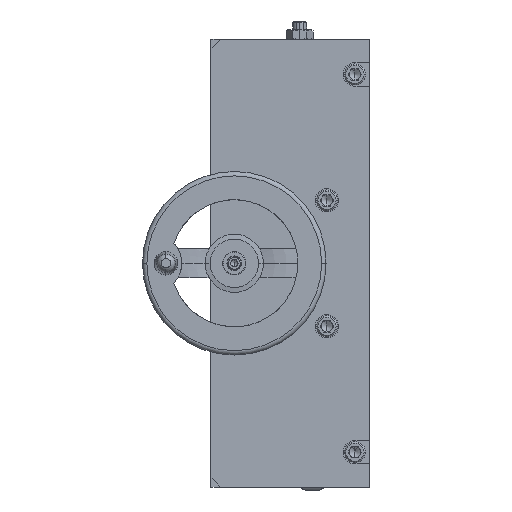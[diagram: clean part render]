
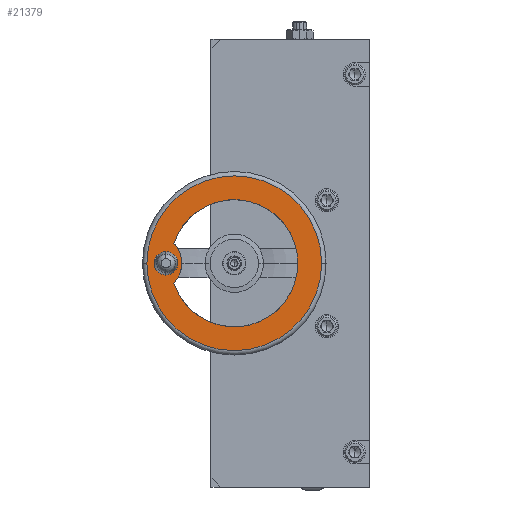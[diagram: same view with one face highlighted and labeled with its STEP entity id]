
A CAD part, left-side view. The second image highlights one B-rep face of the part: STEP entity #21379.
In plain terms, the highlighted planar face has unit normal (-1, 0, 0) as drawn and (0, 1, 0) by its records, which use the part's own axes.
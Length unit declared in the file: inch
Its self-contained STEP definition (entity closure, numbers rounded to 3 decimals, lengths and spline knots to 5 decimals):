
#1946 = CIRCLE ( 'NONE', #1949, 1.70472 ) ;
#1949 = AXIS2_PLACEMENT_3D ( 'NONE', #24365, #24366, #24367 ) ;
#1950 = CIRCLE ( 'NONE', #1953, 0.31496 ) ;
#1953 = AXIS2_PLACEMENT_3D ( 'NONE', #24373, #24374, #24375 ) ;
#1954 = CIRCLE ( 'NONE', #1956, 2.34252 ) ;
#1956 = AXIS2_PLACEMENT_3D ( 'NONE', #24377, #24378, #24379 ) ;
#1978 = CIRCLE ( 'NONE', #1979, 0.7874 ) ;
#1979 = AXIS2_PLACEMENT_3D ( 'NONE', #24510, #24511, #24512 ) ;
#2017 = CIRCLE ( 'NONE', #2018, 0.7874 ) ;
#2018 = AXIS2_PLACEMENT_3D ( 'NONE', #24640, #24641, #24642 ) ;
#4583 = DIRECTION ( 'NONE',  ( 0., 1., 0. ) ) ;
#4588 = PLANE ( 'NONE',  #9662 ) ;
#4589 = FACE_BOUND ( 'NONE', #6217, .T. ) ;
#4590 = CARTESIAN_POINT ( 'NONE',  ( 1.70472, 1.5748, 0. ) ) ;
#4591 = FACE_BOUND ( 'NONE', #6180, .T. ) ;
#4593 = FACE_OUTER_BOUND ( 'NONE', #6147, .T. ) ;
#4594 = DIRECTION ( 'NONE',  ( 0., 0., 1. ) ) ;
#6147 = EDGE_LOOP ( 'NONE', ( #7969, #7968 ) ) ;
#6180 = EDGE_LOOP ( 'NONE', ( #7973, #7972, #7971, #7970 ) ) ;
#6217 = EDGE_LOOP ( 'NONE', ( #7975, #7974 ) ) ;
#7968 = ORIENTED_EDGE ( 'NONE', *, *, #22641, .T. ) ;
#7969 = ORIENTED_EDGE ( 'NONE', *, *, #13269, .T. ) ;
#7970 = ORIENTED_EDGE ( 'NONE', *, *, #22632, .F. ) ;
#7971 = ORIENTED_EDGE ( 'NONE', *, *, #13305, .F. ) ;
#7972 = ORIENTED_EDGE ( 'NONE', *, *, #22678, .T. ) ;
#7973 = ORIENTED_EDGE ( 'NONE', *, *, #22731, .T. ) ;
#7974 = ORIENTED_EDGE ( 'NONE', *, *, #22637, .F. ) ;
#7975 = ORIENTED_EDGE ( 'NONE', *, *, #13300, .F. ) ;
#9006 = VERTEX_POINT ( 'NONE', #22425 ) ;
#9010 = VERTEX_POINT ( 'NONE', #22432 ) ;
#9029 = VERTEX_POINT ( 'NONE', #22465 ) ;
#9030 = VERTEX_POINT ( 'NONE', #22467 ) ;
#9033 = VERTEX_POINT ( 'NONE', #22472 ) ;
#9034 = VERTEX_POINT ( 'NONE', #22474 ) ;
#9039 = VERTEX_POINT ( 'NONE', #22482 ) ;
#9046 = VERTEX_POINT ( 'NONE', #22495 ) ;
#9662 = AXIS2_PLACEMENT_3D ( 'NONE', #4590, #4583, #4594 ) ;
#13269 = EDGE_CURVE ( 'NONE', #9030, #9029, #19564, .T. ) ;
#13300 = EDGE_CURVE ( 'NONE', #9010, #9006, #19625, .T. ) ;
#13305 = EDGE_CURVE ( 'NONE', #9033, #9034, #19772, .T. ) ;
#19437 = AXIS2_PLACEMENT_3D ( 'NONE', #22944, #22945, #22946 ) ;
#19501 = AXIS2_PLACEMENT_3D ( 'NONE', #22917, #22918, #22919 ) ;
#19564 = CIRCLE ( 'NONE', #19748, 2.34252 ) ;
#19625 = CIRCLE ( 'NONE', #19501, 0.31496 ) ;
#19748 = AXIS2_PLACEMENT_3D ( 'NONE', #22743, #22744, #22745 ) ;
#19772 = CIRCLE ( 'NONE', #19437, 1.70472 ) ;
#21379 = ADVANCED_FACE ( 'NONE', ( #4589, #4591, #4593 ), #4588, .T. ) ;
#22425 = CARTESIAN_POINT ( 'NONE',  ( 0.31496, 1.5748, -1.83071 ) ) ;
#22432 = CARTESIAN_POINT ( 'NONE',  ( -0.31496, 1.5748, -1.83071 ) ) ;
#22465 = CARTESIAN_POINT ( 'NONE',  ( 0., 1.5748, -2.34252 ) ) ;
#22467 = CARTESIAN_POINT ( 'NONE',  ( 0., 1.5748, 2.34252 ) ) ;
#22472 = CARTESIAN_POINT ( 'NONE',  ( 0., 1.5748, 1.70472 ) ) ;
#22474 = CARTESIAN_POINT ( 'NONE',  ( 0.53459, 1.5748, -1.61873 ) ) ;
#22482 = CARTESIAN_POINT ( 'NONE',  ( 0., 1.5748, -1.40945 ) ) ;
#22495 = CARTESIAN_POINT ( 'NONE',  ( -0.53459, 1.5748, -1.61873 ) ) ;
#22632 = EDGE_CURVE ( 'NONE', #9046, #9033, #1946, .T. ) ;
#22637 = EDGE_CURVE ( 'NONE', #9006, #9010, #1950, .T. ) ;
#22641 = EDGE_CURVE ( 'NONE', #9029, #9030, #1954, .T. ) ;
#22678 = EDGE_CURVE ( 'NONE', #9039, #9034, #1978, .T. ) ;
#22731 = EDGE_CURVE ( 'NONE', #9046, #9039, #2017, .T. ) ;
#22743 = CARTESIAN_POINT ( 'NONE',  ( 0., 1.5748, 0. ) ) ;
#22744 = DIRECTION ( 'NONE',  ( 0., 1., 0. ) ) ;
#22745 = DIRECTION ( 'NONE',  ( 0., 0., 1. ) ) ;
#22917 = CARTESIAN_POINT ( 'NONE',  ( 0., 1.5748, -1.83071 ) ) ;
#22918 = DIRECTION ( 'NONE',  ( 0., 1., 0. ) ) ;
#22919 = DIRECTION ( 'NONE',  ( 0., 0., 1. ) ) ;
#22944 = CARTESIAN_POINT ( 'NONE',  ( 0., 1.5748, 0. ) ) ;
#22945 = DIRECTION ( 'NONE',  ( 0., 1., 0. ) ) ;
#22946 = DIRECTION ( 'NONE',  ( 0., 0., 1. ) ) ;
#24365 = CARTESIAN_POINT ( 'NONE',  ( 0., 1.5748, 0. ) ) ;
#24366 = DIRECTION ( 'NONE',  ( 0., 1., 0. ) ) ;
#24367 = DIRECTION ( 'NONE',  ( 0., 0., 1. ) ) ;
#24373 = CARTESIAN_POINT ( 'NONE',  ( 0., 1.5748, -1.83071 ) ) ;
#24374 = DIRECTION ( 'NONE',  ( 0., 1., 0. ) ) ;
#24375 = DIRECTION ( 'NONE',  ( 0., 0., 1. ) ) ;
#24377 = CARTESIAN_POINT ( 'NONE',  ( 0., 1.5748, 0. ) ) ;
#24378 = DIRECTION ( 'NONE',  ( 0., 1., 0. ) ) ;
#24379 = DIRECTION ( 'NONE',  ( 0., 0., 1. ) ) ;
#24510 = CARTESIAN_POINT ( 'NONE',  ( 0., 1.5748, -2.19685 ) ) ;
#24511 = DIRECTION ( 'NONE',  ( 0., 1., 0. ) ) ;
#24512 = DIRECTION ( 'NONE',  ( 1., 0., 0. ) ) ;
#24640 = CARTESIAN_POINT ( 'NONE',  ( 0., 1.5748, -2.19685 ) ) ;
#24641 = DIRECTION ( 'NONE',  ( 0., 1., 0. ) ) ;
#24642 = DIRECTION ( 'NONE',  ( 1., 0., 0. ) ) ;
